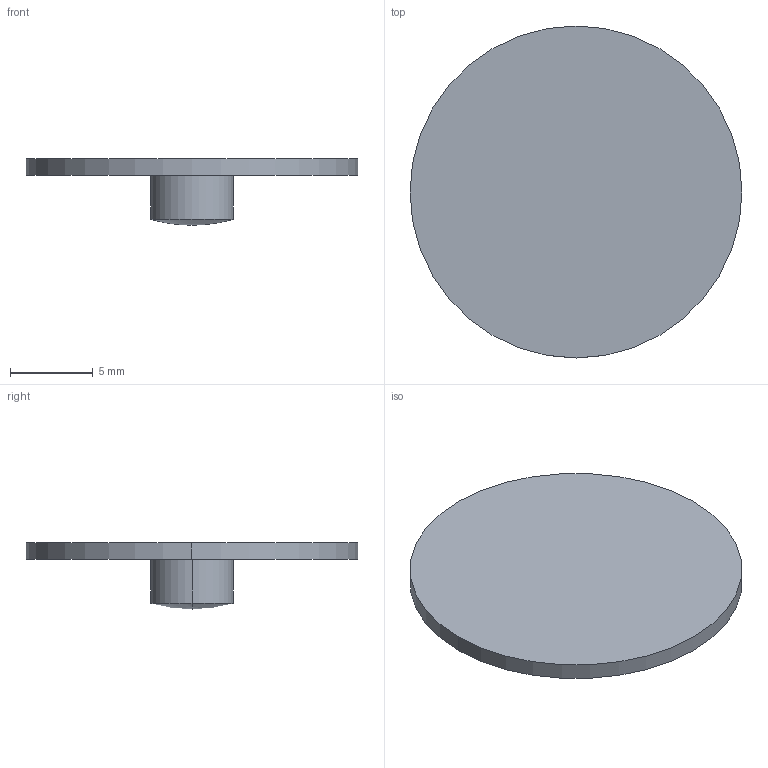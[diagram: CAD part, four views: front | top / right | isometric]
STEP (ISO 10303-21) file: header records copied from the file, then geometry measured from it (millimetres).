
FILE_DESCRIPTION(('STEP AP214'),'1');
FILE_NAME('LL-3-13.STEP','2020-03-09T17:41:13',(' '),(' '),'Spatial InterOp 3D',' ',' ');
FILE_SCHEMA(('AUTOMOTIVE_DESIGN { 1 0 10303 214 1 1 1 1 }'));
Length unit declared in the file: millimetre
Products named in the file (1): 1
Bounding box: 20 x 20 x 4 mm (x, y, z)
Volume: 369.6 mm3; surface area: 772.3 mm2
Topology: 2 solids, 2 shells, 9 faces, 16 edges, 9 vertices
Faces by surface type: cylinder 4, plane 3, sphere 2
Entity records: 229 total; most frequent: DIRECTION 46, CARTESIAN_POINT 34, ORIENTED_EDGE 28, AXIS2_PLACEMENT_3D 21, EDGE_CURVE 14, CIRCLE 10, ADVANCED_FACE 9, FACE_OUTER_BOUND 9
